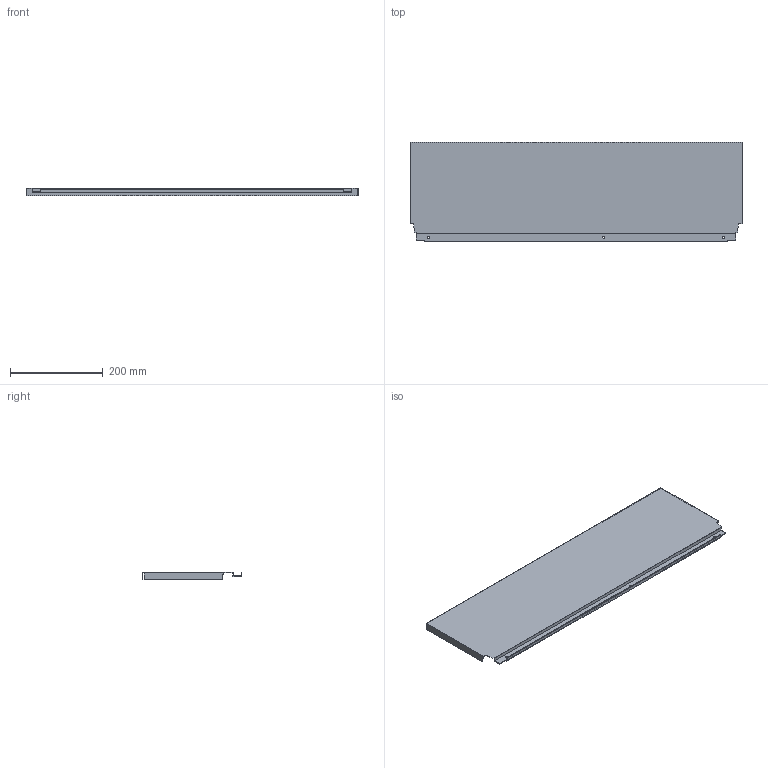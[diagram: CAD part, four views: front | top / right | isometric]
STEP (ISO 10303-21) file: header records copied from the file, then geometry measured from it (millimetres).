
FILE_DESCRIPTION (( 'STEP AP214' ), '1' );
FILE_NAME ('_DWD_XP Stahlrückwand_H214_KAB800_S16.step', '2010-07-08T13:02:51', ( 'grass' ), ( '' ), 'SwSTEP 2.0', 'SolidWorks 2010', '' );
FILE_SCHEMA (( 'AUTOMOTIVE_DESIGN' ));
Length unit declared in the file: millimetre
Products named in the file (1): _DWD_XP Stahlrückwand_H214_KAB800_S16
Bounding box: 717 x 214.58 x 16 mm (x, y, z)
Volume: 170493.3 mm3; surface area: 359582.1 mm2
Topology: 1 solids, 1 shells, 46 faces, 132 edges, 88 vertices
Faces by surface type: plane 40, cylinder 6
Entity records: 1534 total; most frequent: CARTESIAN_POINT 267, ORIENTED_EDGE 264, DIRECTION 238, EDGE_CURVE 132, VECTOR 120, LINE 120, VERTEX_POINT 88, AXIS2_PLACEMENT_3D 59
